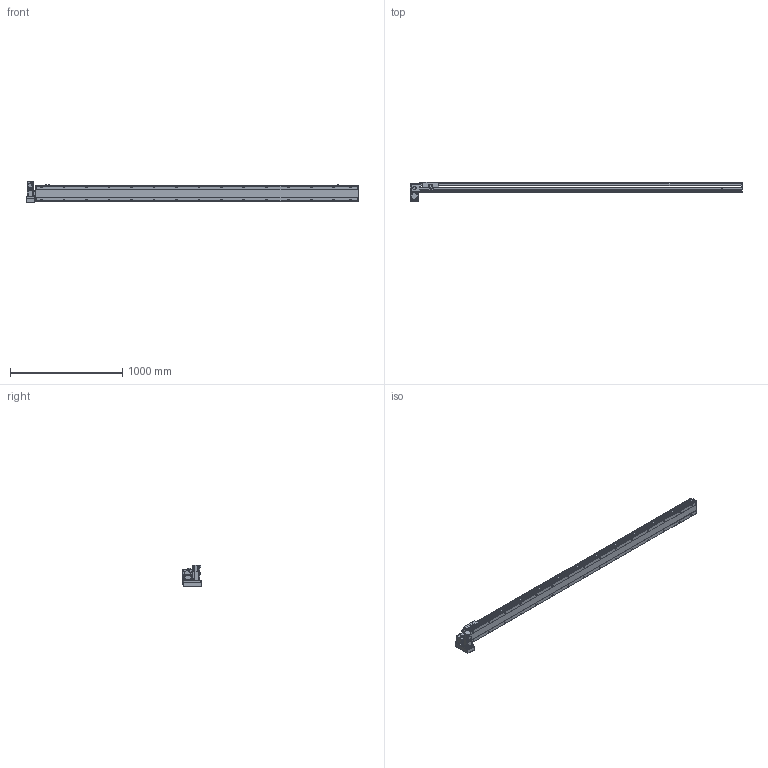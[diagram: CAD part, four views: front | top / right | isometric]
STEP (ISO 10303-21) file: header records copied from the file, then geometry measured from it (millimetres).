
FILE_DESCRIPTION( ( 'STEP AP214' ), '1' );
FILE_NAME( 'x:/temp/worker_6/temp/exporttempdir_5396_112_XHtvK/format_0/PBS140S-P40-S2600-LD-T40-C1-N(0).stp', '2022-06-09T00:29:17', ( 'License CC BY-ND 4.0' ), ( 'CADENAS' ), ' ', 'PARTsolutions', ' ' );
FILE_SCHEMA( ( 'AUTOMOTIVE_DESIGN { 1 0 10303 214 1 1 1 1 }' ) );
Length unit declared in the file: millimetre
Products named in the file (7): PBS140S-P40-S2600-LD-T40-C1-N(0); _PBS140S-S2600()_body; _PBS140ST-LD_motors; _T40-p1; _PBS140S_sliser; _PBS140S_plant; _PBS140S_sensor
Assembly tree (8 placements, depth 2):
  PBS140S-P40-S2600-LD-T40-C1-N(0)
    _PBS140S-S2600()_body
    _PBS140ST-LD_motors
    _T40-p1
    _PBS140S_sliser
    _PBS140S_plant
    _PBS140S_sensor  x3
Bounding box: 2954 x 172.5 x 189.7 mm (x, y, z)
Volume: 14325763.1 mm3; surface area: 2411213.5 mm2
Topology: 8 solids, 8 shells, 1211 faces, 3191 edges, 2087 vertices
Faces by surface type: plane 744, cylinder 401, cone 56, sphere 8, torus 2
Full cylindrical faces by diameter (mm): 3.242 x4, 4 x2, 4.134 x4, 4.4 x8, 4.5 x2, 4.8 x4, 4.917 x38, 5.5 x7, 6 x2, 7 x32, 7.5 x8, 8 x12, 8.5 x4, 10.5 x30, 14 x1, 30 x2, 50 x2
Entity records: 44830 total; most frequent: CARTESIAN_POINT 7582, DIRECTION 5838, ORIENTED_EDGE 5482, EDGE_CURVE 2741, AXIS2_PLACEMENT_3D 2069, VERTEX_POINT 1921, LINE 1700, VECTOR 1700
